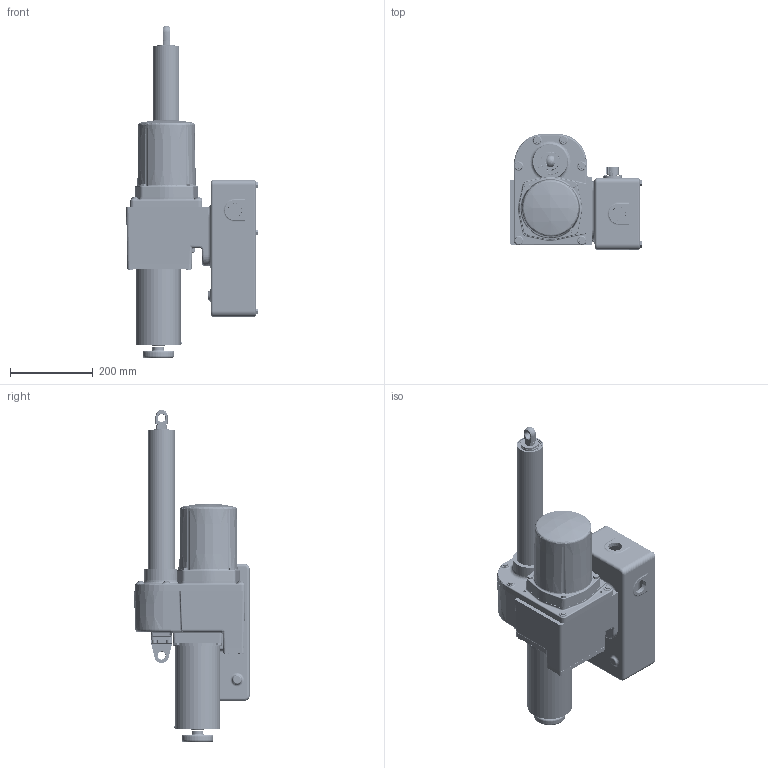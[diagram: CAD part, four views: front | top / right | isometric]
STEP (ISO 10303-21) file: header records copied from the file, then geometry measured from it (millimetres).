
FILE_DESCRIPTION (( 'STEP AP203' ), '1' );
FILE_NAME ('18-4219-01_12_solid.STEP', '2011-07-07T20:37:09', ( '' ), ( '' ), 'SwSTEP 2.0', 'SolidWorks 2009', '' );
FILE_SCHEMA (( 'CONFIG_CONTROL_DESIGN' ));
Length unit declared in the file: inch
Products named in the file (1): 18-4219-01_12_solid
Bounding box: 317.95 x 280.68 x 801.9 mm (x, y, z)
Volume: 6844931.7 mm3; surface area: 1783429.9 mm2
Topology: 65 solids, 65 shells, 5310 faces, 13121 edges, 7893 vertices
Faces by surface type: plane 1758, cylinder 1573, cone 809, bspline 560, torus 456, sphere 154
Entity records: 227379 total; most frequent: CARTESIAN_POINT 105028, ORIENTED_EDGE 25684, DIRECTION 25421, EDGE_CURVE 12842, AXIS2_PLACEMENT_3D 9744, VERTEX_POINT 7887, LINE 5933, VECTOR 5933
